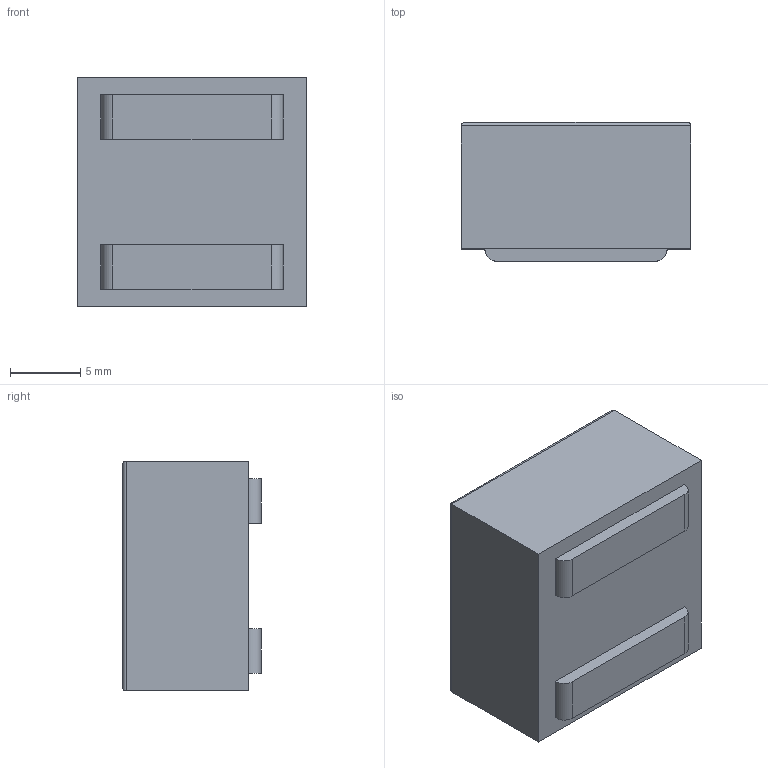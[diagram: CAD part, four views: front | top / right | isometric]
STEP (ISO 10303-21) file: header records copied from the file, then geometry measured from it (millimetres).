
FILE_DESCRIPTION (( 'STEP AP214' ), '1' );
FILE_NAME ('74439370220.STEP', '2023-04-13T11:03:05', ( '' ), ( '' ), 'SwSTEP 2.0', 'SolidWorks 2019', '' );
FILE_SCHEMA (( 'AUTOMOTIVE_DESIGN' ));
Length unit declared in the file: millimetre
Products named in the file (1): 74439370220
Bounding box: 16.4 x 9.9 x 16.4 mm (x, y, z)
Volume: 2492.2 mm3; surface area: 1340 mm2
Topology: 3 solids, 3 shells, 25 faces, 50 edges, 32 vertices
Faces by surface type: plane 15, cylinder 8, torus 2
Entity records: 720 total; most frequent: CARTESIAN_POINT 120, DIRECTION 112, ORIENTED_EDGE 100, EDGE_CURVE 50, AXIS2_PLACEMENT_3D 40, VECTOR 32, VERTEX_POINT 32, LINE 32
